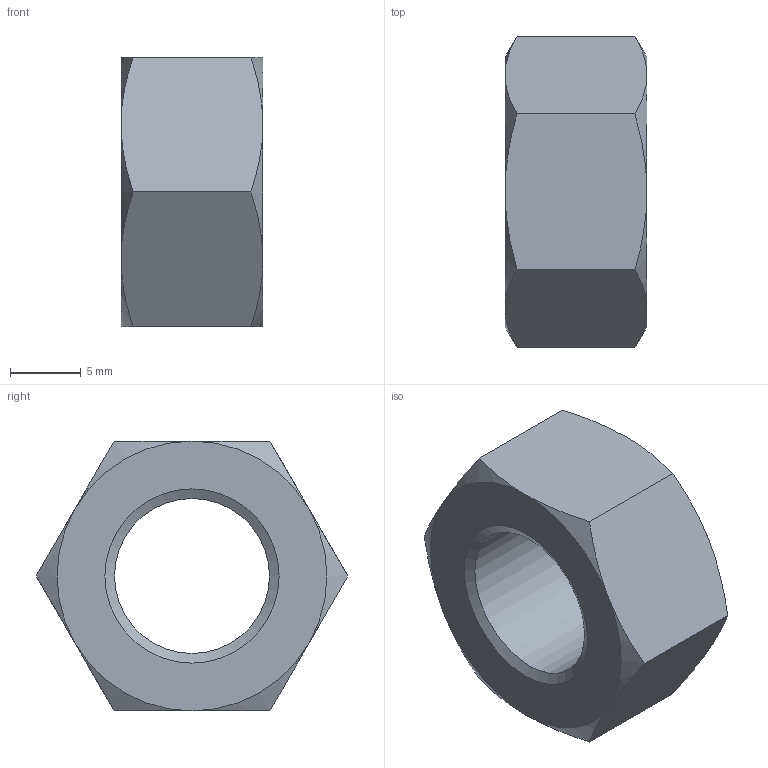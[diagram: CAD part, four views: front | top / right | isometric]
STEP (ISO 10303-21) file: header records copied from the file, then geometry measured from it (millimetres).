
FILE_DESCRIPTION(/* description */ ('6각 너트','CAx-IF Rec.Pracs.---Representation and Presentation of Product Manufacturing Information (PMI)---4.0---2014-10-13'),/* implementation_level */ '2;1');
FILE_NAME(/* name */ '',/* time_stamp */ '2025-04-03T15:20:16+09:00',/* author */ ('jhkim'),/* organization */ (''),/* preprocessor_version */ 'ST-DEVELOPER v20.1',/* originating_system */ 'Autodesk Inventor 2026',/* authorisation */ '');
FILE_SCHEMA (('AP242_MANAGED_MODEL_BASED_3D_ENGINEERING_MIM_LF { 1 0 10303 442 2 1 4 }'));
Length unit declared in the file: millimetre
Products named in the file (1): 6각 너트 M12x1
Bounding box: 10 x 21.94 x 19 mm (x, y, z)
Volume: 2166 mm3; surface area: 1390.7 mm2
Topology: 1 solids, 1 shells, 23 faces, 50 edges, 29 vertices
Faces by surface type: cone 14, plane 8, cylinder 1
Full cylindrical faces by diameter (mm): 10.917 x1
Entity records: 757 total; most frequent: CARTESIAN_POINT 184, DIRECTION 101, ORIENTED_EDGE 100, EDGE_CURVE 50, AXIS2_PLACEMENT_3D 46, VERTEX_POINT 29, EDGE_LOOP 25, FACE_OUTER_BOUND 23
